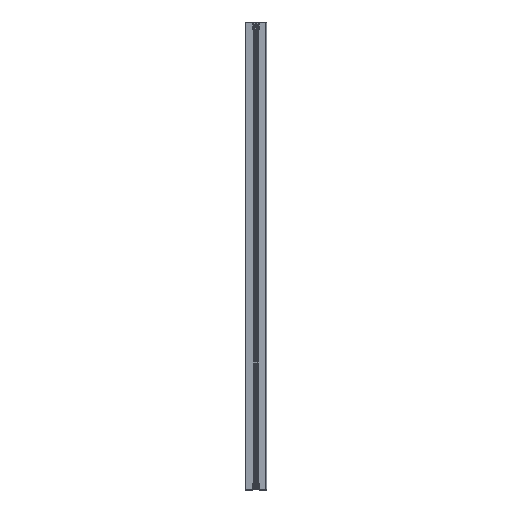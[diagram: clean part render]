
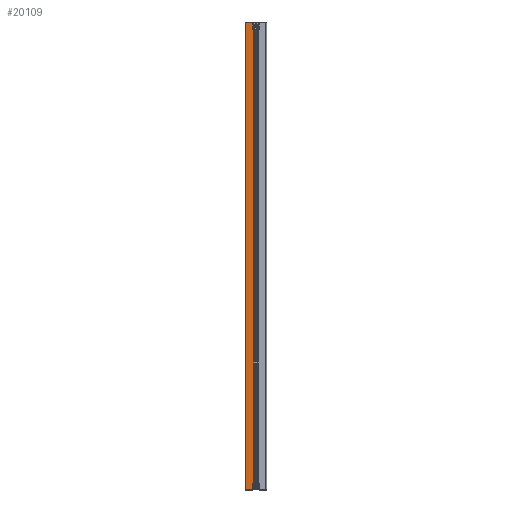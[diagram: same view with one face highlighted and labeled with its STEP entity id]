
A CAD part, left-side view. The second image highlights one B-rep face of the part: STEP entity #20109.
In plain terms, the highlighted planar face has unit normal (-1, 0, 0).
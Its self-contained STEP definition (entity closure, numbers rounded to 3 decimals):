
#42 = CARTESIAN_POINT ( 'NONE',  ( -16., 46.5, 1017. ) ) ;
#701 = CARTESIAN_POINT ( 'NONE',  ( -16., 46.5, 1017. ) ) ;
#1628 = CARTESIAN_POINT ( 'NONE',  ( -16., 13.85, 1017. ) ) ;
#2451 = LINE ( 'NONE', #42, #26259 ) ;
#2518 = EDGE_CURVE ( 'NONE', #29282, #22664, #8996, .T. ) ;
#2703 = DIRECTION ( 'NONE',  ( 0., 0., 1. ) ) ;
#2867 = EDGE_CURVE ( 'NONE', #5854, #28362, #10090, .T. ) ;
#2950 = ORIENTED_EDGE ( 'NONE', *, *, #13918, .T. ) ;
#3688 = CARTESIAN_POINT ( 'NONE',  ( -16., 13.85, -1017. ) ) ;
#5471 = CARTESIAN_POINT ( 'NONE',  ( -16., 8.487, 1017. ) ) ;
#5854 = VERTEX_POINT ( 'NONE', #21189 ) ;
#6057 = VERTEX_POINT ( 'NONE', #29653 ) ;
#6372 = CARTESIAN_POINT ( 'NONE',  ( -16., 8.776, 987.3 ) ) ;
#7017 = FACE_OUTER_BOUND ( 'NONE', #24516, .T. ) ;
#7080 = EDGE_CURVE ( 'NONE', #26628, #5854, #2451, .T. ) ;
#8996 = LINE ( 'NONE', #1628, #31047 ) ;
#9103 = VECTOR ( 'NONE', #2703, 1000. ) ;
#9413 = DIRECTION ( 'NONE',  ( 1., 0., 0. ) ) ;
#9840 = CARTESIAN_POINT ( 'NONE',  ( -16., 13.85, -1016.9 ) ) ;
#10090 = LINE ( 'NONE', #20015, #24519 ) ;
#11290 = DIRECTION ( 'NONE',  ( 0., -1., 0. ) ) ;
#11529 = DIRECTION ( 'NONE',  ( 0., -1., 0. ) ) ;
#11654 = PLANE ( 'NONE',  #30852 ) ;
#12162 = VECTOR ( 'NONE', #19716, 1000. ) ;
#13369 = ORIENTED_EDGE ( 'NONE', *, *, #26926, .T. ) ;
#13777 = DIRECTION ( 'NONE',  ( 0., 0., 1. ) ) ;
#13888 = EDGE_CURVE ( 'NONE', #26628, #29282, #30124, .T. ) ;
#13918 = EDGE_CURVE ( 'NONE', #28362, #29864, #22929, .T. ) ;
#14213 = CARTESIAN_POINT ( 'NONE',  ( -16., 8.487, 1017. ) ) ;
#14730 = DIRECTION ( 'NONE',  ( 0., -1., 0. ) ) ;
#14846 = CARTESIAN_POINT ( 'NONE',  ( -16., 13.85, 1017. ) ) ;
#14850 = ORIENTED_EDGE ( 'NONE', *, *, #18813, .F. ) ;
#15854 = EDGE_CURVE ( 'NONE', #29864, #6057, #28741, .T. ) ;
#16066 = CARTESIAN_POINT ( 'NONE',  ( -16., 13.85, -987.3 ) ) ;
#16739 = VECTOR ( 'NONE', #11290, 1000. ) ;
#17407 = ORIENTED_EDGE ( 'NONE', *, *, #13888, .F. ) ;
#17665 = ORIENTED_EDGE ( 'NONE', *, *, #2518, .F. ) ;
#18276 = CARTESIAN_POINT ( 'NONE',  ( -16., 13.85, 987.3 ) ) ;
#18813 = EDGE_CURVE ( 'NONE', #22664, #27051, #29289, .T. ) ;
#19568 = DIRECTION ( 'NONE',  ( 0., 0., -1. ) ) ;
#19716 = DIRECTION ( 'NONE',  ( 0., -1., 0. ) ) ;
#20015 = CARTESIAN_POINT ( 'NONE',  ( -16., 8.487, -1016.9 ) ) ;
#20109 = ADVANCED_FACE ( 'NONE', ( #7017 ), #11654, .F. ) ;
#21154 = DIRECTION ( 'NONE',  ( 0., 0., -1. ) ) ;
#21189 = CARTESIAN_POINT ( 'NONE',  ( -16., 46.5, -1016.9 ) ) ;
#22431 = ORIENTED_EDGE ( 'NONE', *, *, #2867, .T. ) ;
#22563 = LINE ( 'NONE', #27381, #9103 ) ;
#22664 = VERTEX_POINT ( 'NONE', #18276 ) ;
#22665 = CARTESIAN_POINT ( 'NONE',  ( -16., 13.85, -987.3 ) ) ;
#22929 = LINE ( 'NONE', #3688, #31581 ) ;
#23987 = DIRECTION ( 'NONE',  ( 0., 1., 0. ) ) ;
#24516 = EDGE_LOOP ( 'NONE', ( #2950, #27238, #13369, #14850, #17665, #17407, #28452, #22431 ) ) ;
#24519 = VECTOR ( 'NONE', #14730, 1000. ) ;
#25702 = VECTOR ( 'NONE', #11529, 1000. ) ;
#26259 = VECTOR ( 'NONE', #19568, 1000. ) ;
#26628 = VERTEX_POINT ( 'NONE', #701 ) ;
#26926 = EDGE_CURVE ( 'NONE', #6057, #27051, #22563, .T. ) ;
#27051 = VERTEX_POINT ( 'NONE', #6372 ) ;
#27238 = ORIENTED_EDGE ( 'NONE', *, *, #15854, .T. ) ;
#27381 = CARTESIAN_POINT ( 'NONE',  ( -16., 8.776, 1017. ) ) ;
#28362 = VERTEX_POINT ( 'NONE', #9840 ) ;
#28452 = ORIENTED_EDGE ( 'NONE', *, *, #7080, .T. ) ;
#28741 = LINE ( 'NONE', #16066, #16739 ) ;
#29282 = VERTEX_POINT ( 'NONE', #14846 ) ;
#29289 = LINE ( 'NONE', #31528, #25702 ) ;
#29653 = CARTESIAN_POINT ( 'NONE',  ( -16., 8.776, -987.3 ) ) ;
#29864 = VERTEX_POINT ( 'NONE', #22665 ) ;
#30124 = LINE ( 'NONE', #5471, #12162 ) ;
#30852 = AXIS2_PLACEMENT_3D ( 'NONE', #14213, #9413, #23987 ) ;
#31047 = VECTOR ( 'NONE', #21154, 1000. ) ;
#31528 = CARTESIAN_POINT ( 'NONE',  ( -16., 13.85, 987.3 ) ) ;
#31581 = VECTOR ( 'NONE', #13777, 1000. ) ;
